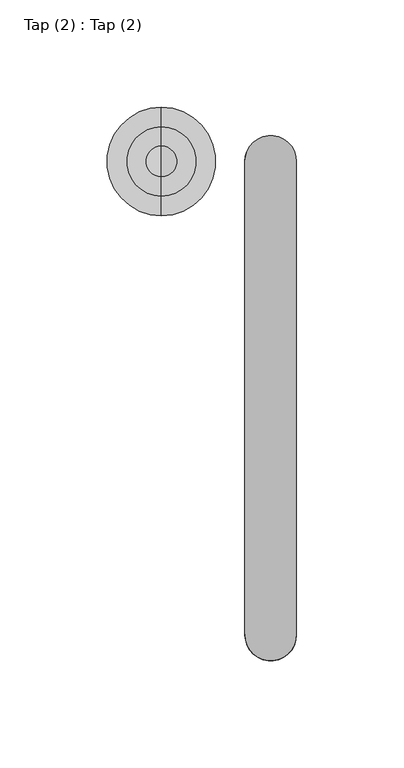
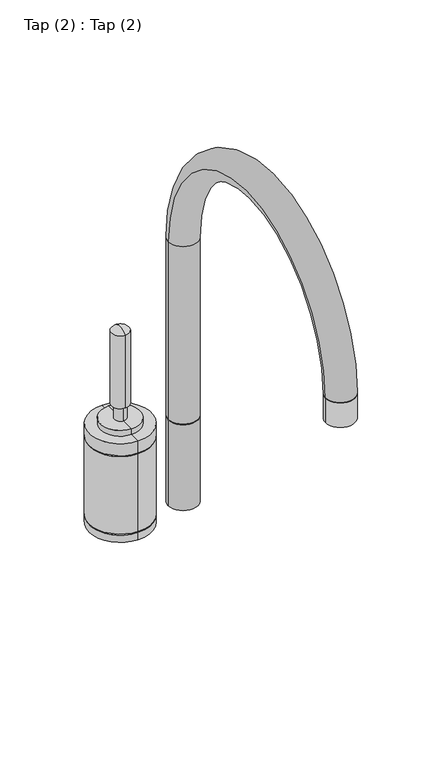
"""IFC4 building model written with IfcOpenShell, lengths in millimetres: flow terminal geometry, Tap (2) : Tap (2)."""

from ifc_helpers import new_model, si_unit, point, frame, frame_2d, origin, place, context, project, spatial, circle_curve, ellipse_curve, trimmed, segment, composite_curve, outline, extrude, source, transform, mapped, element, save
from ifc_brep_helpers import plane_surface, cylinder_surface, revolved_surface, advanced_brep


def tap_2_tap_2_4da6b067(model_context):
    return source(origin(), model_context, "Body", "SolidModel", [
        advanced_brep(
        [(-50.9853721, 24.996225, 7.0481597), (-50.9853721, 24.996225, 73.3929297), (-50.9853721, -25.596225, 73.3929297), (-50.9853721, -25.596225, 7.0481597), (-50.9853721, 23.0220655, 7.0481597), (-50.9853721, -23.6220655, 7.0481597), (-50.9853721, 23.0220655, 6.1258765), (-50.9853721, -23.6220655, 6.1258765), (-50.9853721, 24.996225, 6.1258765), (-50.9853721, -25.596225, 6.1258765), (-50.9853721, 24.996225, 0.0), (-50.9853721, -25.596225, 0.0), (-50.9853721, -0.3, 0.0), (-50.9853721, 6.8484255, 164.3758642), (-50.9853721, -0.3, 167.6798453), (-50.9853721, -7.4484255, 164.3758642), (-50.9853721, 6.8484255, 101.8164478), (-50.9853721, -7.4484255, 101.8164478), (-50.9853721, 4.4833611, 101.8164478), (-50.9853721, -5.0833611, 101.8164478), (-50.9853721, 4.4833611, 89.4265231), (-50.9853721, -5.0833611, 89.4265231), (-50.9853721, 15.8021288, 89.4265231), (-50.9853721, -16.4021288, 89.4265231), (-50.9853721, 15.8021288, 84.643162), (-50.9853721, -16.4021288, 84.643162), (-50.9853721, 24.996225, 84.643162), (-50.9853721, -25.596225, 84.643162), (-50.9853721, 24.996225, 74.315213), (-50.9853721, -25.596225, 74.315213), (-50.9853721, 23.0220655, 74.315213), (-50.9853721, -23.6220655, 74.315213), (-50.9853721, 23.0220655, 73.3929297), (-50.9853721, -23.6220655, 73.3929297)],
        [
            (0, 1),
            (1, 2, circle_curve(frame((-50.9853721, -0.3, 73.3929297), z_axis=(0.0, 0.0, -1.0), x_axis=(0.0, -1.0, 0.0)), 25.296225)),
            (2, 3),
            (3, 0, circle_curve(frame((-50.9853721, -0.3, 7.0481597), z_axis=(0.0, 0.0, 1.0), x_axis=(0.0, -1.0, 0.0)), 25.296225)),
            (2, 1, circle_curve(frame((-50.9853721, -0.3, 73.3929297), z_axis=(0.0, 0.0, -1.0), x_axis=(0.0, -1.0, 0.0)), 25.296225)),
            (0, 3, circle_curve(frame((-50.9853721, -0.3, 7.0481597), z_axis=(0.0, 0.0, 1.0), x_axis=(0.0, -1.0, 0.0)), 25.296225)),
            (4, 0),
            (3, 5),
            (5, 4, circle_curve(frame((-50.9853721, -0.3, 7.0481597), z_axis=(0.0, 0.0, 1.0), x_axis=(0.0, -1.0, 0.0)), 23.3220655)),
            (4, 5, circle_curve(frame((-50.9853721, -0.3, 7.0481597), z_axis=(0.0, 0.0, 1.0), x_axis=(0.0, -1.0, 0.0)), 23.3220655)),
            (6, 4),
            (5, 7),
            (7, 6, circle_curve(frame((-50.9853721, -0.3, 6.1258765), z_axis=(0.0, 0.0, 1.0), x_axis=(0.0, -1.0, 0.0)), 23.3220655)),
            (6, 7, circle_curve(frame((-50.9853721, -0.3, 6.1258765), z_axis=(0.0, 0.0, 1.0), x_axis=(0.0, -1.0, 0.0)), 23.3220655)),
            (8, 6),
            (7, 9),
            (9, 8, circle_curve(frame((-50.9853721, -0.3, 6.1258765), z_axis=(0.0, 0.0, 1.0), x_axis=(0.0, -1.0, 0.0)), 25.296225)),
            (8, 9, circle_curve(frame((-50.9853721, -0.3, 6.1258765), z_axis=(0.0, 0.0, 1.0), x_axis=(0.0, -1.0, 0.0)), 25.296225)),
            (10, 8),
            (9, 11),
            (11, 10, circle_curve(frame((-50.9853721, -0.3, 0.0), z_axis=(0.0, 0.0, 1.0), x_axis=(0.0, -1.0, 0.0)), 25.296225)),
            (10, 11, circle_curve(frame((-50.9853721, -0.3, 0.0), z_axis=(0.0, 0.0, 1.0), x_axis=(0.0, -1.0, 0.0)), 25.296225)),
            (12, 10),
            (11, 12),
            (13, 14, circle_curve(frame((-50.9853721, -1.2741158, 156.1871846), z_axis=(1.0, 0.0, 0.0), x_axis=(0.0, 0.7042338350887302, 0.7099681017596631)), 11.5338697)),
            (14, 15, circle_curve(frame((-50.9853721, 0.6741158, 156.1871846), z_axis=(1.0, 0.0, 0.0), x_axis=(0.0, -0.7042338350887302, 0.7099681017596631)), 11.5338697)),
            (15, 13, circle_curve(frame((-50.9853721, -0.3, 164.3758642), z_axis=(0.0, 0.0, 1.0), x_axis=(0.0, -1.0, 0.0)), 7.1484255)),
            (13, 15, circle_curve(frame((-50.9853721, -0.3, 164.3758642), z_axis=(0.0, 0.0, 1.0), x_axis=(0.0, -1.0, 0.0)), 7.1484255)),
            (16, 13),
            (15, 17),
            (17, 16, circle_curve(frame((-50.9853721, -0.3, 101.8164478), z_axis=(0.0, 0.0, 1.0), x_axis=(0.0, -1.0, 0.0)), 7.1484255)),
            (16, 17, circle_curve(frame((-50.9853721, -0.3, 101.8164478), z_axis=(0.0, 0.0, 1.0), x_axis=(0.0, -1.0, 0.0)), 7.1484255)),
            (18, 16),
            (17, 19),
            (19, 18, circle_curve(frame((-50.9853721, -0.3, 101.8164478), z_axis=(0.0, 0.0, 1.0), x_axis=(0.0, -1.0, 0.0)), 4.7833611)),
            (18, 19, circle_curve(frame((-50.9853721, -0.3, 101.8164478), z_axis=(0.0, 0.0, 1.0), x_axis=(0.0, -1.0, 0.0)), 4.7833611)),
            (20, 18),
            (19, 21),
            (21, 20, circle_curve(frame((-50.9853721, -0.3, 89.4265231), z_axis=(0.0, 0.0, 1.0), x_axis=(0.0, -1.0, 0.0)), 4.7833611)),
            (20, 21, circle_curve(frame((-50.9853721, -0.3, 89.4265231), z_axis=(0.0, 0.0, 1.0), x_axis=(0.0, -1.0, 0.0)), 4.7833611)),
            (22, 20),
            (21, 23),
            (23, 22, circle_curve(frame((-50.9853721, -0.3, 89.4265231), z_axis=(0.0, 0.0, 1.0), x_axis=(0.0, -1.0, 0.0)), 16.1021288)),
            (22, 23, circle_curve(frame((-50.9853721, -0.3, 89.4265231), z_axis=(0.0, 0.0, 1.0), x_axis=(0.0, -1.0, 0.0)), 16.1021288)),
            (24, 22),
            (23, 25),
            (25, 24, circle_curve(frame((-50.9853721, -0.3, 84.643162), z_axis=(0.0, 0.0, 1.0), x_axis=(0.0, -1.0, 0.0)), 16.1021288)),
            (24, 25, circle_curve(frame((-50.9853721, -0.3, 84.643162), z_axis=(0.0, 0.0, 1.0), x_axis=(0.0, -1.0, 0.0)), 16.1021288)),
            (26, 24),
            (25, 27),
            (27, 26, circle_curve(frame((-50.9853721, -0.3, 84.643162), z_axis=(0.0, 0.0, 1.0), x_axis=(0.0, -1.0, 0.0)), 25.296225)),
            (26, 27, circle_curve(frame((-50.9853721, -0.3, 84.643162), z_axis=(0.0, 0.0, 1.0), x_axis=(0.0, -1.0, 0.0)), 25.296225)),
            (28, 26),
            (27, 29),
            (29, 28, circle_curve(frame((-50.9853721, -0.3, 74.315213), z_axis=(0.0, 0.0, 1.0), x_axis=(0.0, -1.0, 0.0)), 25.296225)),
            (28, 29, circle_curve(frame((-50.9853721, -0.3, 74.315213), z_axis=(0.0, 0.0, 1.0), x_axis=(0.0, -1.0, 0.0)), 25.296225)),
            (30, 28),
            (29, 31),
            (31, 30, circle_curve(frame((-50.9853721, -0.3, 74.315213), z_axis=(0.0, 0.0, 1.0), x_axis=(0.0, -1.0, 0.0)), 23.3220655)),
            (30, 31, circle_curve(frame((-50.9853721, -0.3, 74.315213), z_axis=(0.0, 0.0, 1.0), x_axis=(0.0, -1.0, 0.0)), 23.3220655)),
            (32, 30),
            (31, 33),
            (33, 32, circle_curve(frame((-50.9853721, -0.3, 73.3929297), z_axis=(0.0, 0.0, 1.0), x_axis=(0.0, -1.0, 0.0)), 23.3220655)),
            (32, 33, circle_curve(frame((-50.9853721, -0.3, 73.3929297), z_axis=(0.0, 0.0, 1.0), x_axis=(0.0, -1.0, 0.0)), 23.3220655)),
            (1, 32),
            (33, 2),
        ],
        [
            cylinder_surface(frame((-50.9853721, -0.3, 0.0), z_axis=(0.0, 0.0, -1.0), x_axis=(0.0, -1.0, 0.0)), 25.296225),
            plane_surface(frame((-50.9853721, -0.3, 7.0481597), z_axis=(0.0, 0.0, -1.0), x_axis=(0.0, -1.0, 0.0))),
            cylinder_surface(frame((-50.9853721, -0.3, 0.0), z_axis=(0.0, 0.0, -1.0), x_axis=(0.0, -1.0, 0.0)), 23.3220655),
            plane_surface(frame((-50.9853721, -0.3, 6.1258765), z_axis=(0.0, 0.0, 1.0), x_axis=(0.0, -1.0, 0.0))),
            plane_surface(frame((-50.9853721, -0.3, 0.0), z_axis=(0.0, 0.0, -1.0), x_axis=(0.0, -1.0, 0.0))),
            revolved_surface(trimmed(ellipse_curve(frame((-50.9853721, 0.6741158, 156.1871846), z_axis=(1.0, 0.0, 0.0), x_axis=(0.0, -0.7042338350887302, 0.7099681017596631)), 11.5338697, 11.5338697), [point((-50.9853721, -0.3, 167.6798453))], [point((-50.9853721, -7.4484255, 164.3758642))], True, "CARTESIAN"), (-50.9853721, -0.3, 0.0), (0.0, 0.0, -1.0)),
            cylinder_surface(frame((-50.9853721, -0.3, 0.0), z_axis=(0.0, 0.0, -1.0), x_axis=(0.0, -1.0, 0.0)), 7.1484255),
            plane_surface(frame((-50.9853721, -0.3, 101.8164478), z_axis=(0.0, 0.0, -1.0), x_axis=(0.0, -1.0, 0.0))),
            cylinder_surface(frame((-50.9853721, -0.3, 0.0), z_axis=(0.0, 0.0, -1.0), x_axis=(0.0, -1.0, 0.0)), 4.7833611),
            plane_surface(frame((-50.9853721, -0.3, 89.4265231), z_axis=(0.0, 0.0, 1.0), x_axis=(0.0, -1.0, 0.0))),
            cylinder_surface(frame((-50.9853721, -0.3, 0.0), z_axis=(0.0, 0.0, -1.0), x_axis=(0.0, -1.0, 0.0)), 16.1021288),
            plane_surface(frame((-50.9853721, -0.3, 84.643162), z_axis=(0.0, 0.0, 1.0), x_axis=(0.0, -1.0, 0.0))),
            plane_surface(frame((-50.9853721, -0.3, 74.315213), z_axis=(0.0, 0.0, -1.0), x_axis=(0.0, -1.0, 0.0))),
            plane_surface(frame((-50.9853721, -0.3, 73.3929297), z_axis=(0.0, 0.0, 1.0), x_axis=(0.0, -1.0, 0.0))),
        ],
        [
            (0, [[1, 2, 3, 4]]),
            (0, [[-3, 5, -1, 6]]),
            (1, [[7, -4, 8, 9]]),
            (1, [[-8, -6, -7, 10]]),
            (2, [[11, -9, 12, 13]]),
            (2, [[-12, -10, -11, 14]]),
            (3, [[15, -13, 16, 17]]),
            (3, [[-16, -14, -15, 18]]),
            (0, [[19, -17, 20, 21]]),
            (0, [[-20, -18, -19, 22]]),
            (4, [[23, -21, 24]]),
            (4, [[-24, -22, -23]]),
            (5, [[25, 26, 27]]),
            (5, [[-26, -25, 28]]),
            (6, [[29, -27, 30, 31]]),
            (6, [[-30, -28, -29, 32]]),
            (7, [[33, -31, 34, 35]]),
            (7, [[-34, -32, -33, 36]]),
            (8, [[37, -35, 38, 39]]),
            (8, [[-38, -36, -37, 40]]),
            (9, [[41, -39, 42, 43]]),
            (9, [[-42, -40, -41, 44]]),
            (10, [[45, -43, 46, 47]]),
            (10, [[-46, -44, -45, 48]]),
            (11, [[49, -47, 50, 51]]),
            (11, [[-50, -48, -49, 52]]),
            (0, [[53, -51, 54, 55]]),
            (0, [[-54, -52, -53, 56]]),
            (12, [[57, -55, 58, 59]]),
            (12, [[-58, -56, -57, 60]]),
            (2, [[61, -59, 62, 63]]),
            (2, [[-62, -60, -61, 64]]),
            (13, [[65, -63, 66, -2]]),
            (13, [[-66, -64, -65, -5]]),
        ],
    ),
        extrude(outline(composite_curve([segment(trimmed(circle_curve(frame_2d((0.0, -221.2769697)), 12.0), [point((12.0, -221.2769697))], [point((-12.0, -221.2769697))], False, "CARTESIAN"), True, "CONTINUOUS"), segment(trimmed(circle_curve(frame_2d((0.0, -221.2769697)), 12.0), [point((-12.0, -221.2769697))], [point((12.0, -221.2769697))], False, "CARTESIAN"), True, "CONTINUOUS")], self_intersect=False)), frame((0.0, 0.0, 205.415632), z_axis=(0.0, 0.0, 1.0), x_axis=(1.0, 0.0, 0.0)), (0.0, 0.0, 1.0), 20.9635721),
        advanced_brep(
        [(-12.0, -221.2769697, 226.3792041), (12.0, -221.2769697, 226.3792041), (12.0, -0.3, 226.3792041), (-12.0, -0.3, 226.3792041), (-12.0, -0.3, 0.0), (12.0, -0.3, 0.0), (12.0, -0.3, 74.315213), (0.0, 11.7, 74.315213), (-12.0, -0.3, 74.315213), (-12.0, -0.3, 73.3929297), (0.0, 11.7, 73.3929297), (12.0, -0.3, 73.3929297), (0.0, -12.3, 74.315213), (0.0, -12.3, 73.3929297), (0.0, 10.8084675, 74.315213), (0.0, -11.4084675, 74.315213), (0.0, -11.4084675, 73.3929297), (0.0, 10.8084675, 73.3929297)],
        [
            (0, 1, circle_curve(frame((0.0, -221.2769697, 226.3792041), z_axis=(0.0, 0.0, -1.0), x_axis=(1.0, 0.0, 0.0)), 12.0)),
            (1, 0, circle_curve(frame((0.0, -221.2769697, 226.3792041), z_axis=(0.0, 0.0, -1.0), x_axis=(1.0, 0.0, 0.0)), 12.0)),
            (1, 2, circle_curve(frame((12.0, -110.7884849, 226.3792041), z_axis=(-1.0, 0.0, 0.0), x_axis=(0.0, -1.0, 0.0)), 110.4884849)),
            (2, 3, circle_curve(frame((0.0, -0.3, 226.3792041), z_axis=(0.0, 0.0, 1.0), x_axis=(1.0, 0.0, 0.0)), 12.0)),
            (3, 0, circle_curve(frame((-12.0, -110.7884849, 226.3792041), z_axis=(1.0, 0.0, 0.0), x_axis=(0.0, -1.0, 0.0)), 110.4884849)),
            (3, 2, circle_curve(frame((0.0, -0.3, 226.3792041), z_axis=(0.0, 0.0, 1.0), x_axis=(1.0, 0.0, 0.0)), 12.0)),
            (4, 5, circle_curve(frame((0.0, -0.3, 0.0), z_axis=(0.0, 0.0, -1.0), x_axis=(1.0, 0.0, 0.0)), 12.0)),
            (5, 4, circle_curve(frame((0.0, -0.3, 0.0), z_axis=(0.0, 0.0, -1.0), x_axis=(1.0, 0.0, 0.0)), 12.0)),
            (2, 6),
            (6, 7, circle_curve(frame((0.0, -0.3, 74.315213), z_axis=(0.0, 0.0, 1.0), x_axis=(1.0, 0.0, 0.0)), 12.0)),
            (7, 8, circle_curve(frame((0.0, -0.3, 74.315213), z_axis=(0.0, 0.0, 1.0), x_axis=(1.0, 0.0, 0.0)), 12.0)),
            (8, 3),
            (4, 9),
            (9, 10, circle_curve(frame((0.0, -0.3, 73.3929297), z_axis=(0.0, 0.0, -1.0), x_axis=(1.0, 0.0, 0.0)), 12.0)),
            (10, 11, circle_curve(frame((0.0, -0.3, 73.3929297), z_axis=(0.0, 0.0, -1.0), x_axis=(1.0, 0.0, 0.0)), 12.0)),
            (11, 5),
            (8, 12, circle_curve(frame((0.0, -0.3, 74.315213), z_axis=(0.0, 0.0, 1.0), x_axis=(1.0, 0.0, 0.0)), 12.0)),
            (12, 6, circle_curve(frame((0.0, -0.3, 74.315213), z_axis=(0.0, 0.0, 1.0), x_axis=(1.0, 0.0, 0.0)), 12.0)),
            (11, 13, circle_curve(frame((0.0, -0.3, 73.3929297), z_axis=(0.0, 0.0, -1.0), x_axis=(1.0, 0.0, 0.0)), 12.0)),
            (13, 9, circle_curve(frame((0.0, -0.3, 73.3929297), z_axis=(0.0, 0.0, -1.0), x_axis=(1.0, 0.0, 0.0)), 12.0)),
            (14, 15, circle_curve(frame((0.0, -0.3, 74.315213), z_axis=(0.0, 0.0, -1.0), x_axis=(0.0, -1.0, 0.0)), 11.1084675)),
            (15, 16),
            (16, 17, circle_curve(frame((0.0, -0.3, 73.3929297), z_axis=(0.0, 0.0, 1.0), x_axis=(0.0, -1.0, 0.0)), 11.1084675)),
            (17, 14),
            (17, 16, circle_curve(frame((0.0, -0.3, 73.3929297), z_axis=(0.0, 0.0, 1.0), x_axis=(0.0, -1.0, 0.0)), 11.1084675)),
            (15, 14, circle_curve(frame((0.0, -0.3, 74.315213), z_axis=(0.0, 0.0, -1.0), x_axis=(0.0, -1.0, 0.0)), 11.1084675)),
            (14, 7),
            (12, 15),
            (16, 13),
            (10, 17),
        ],
        [
            plane_surface(frame((0.0, -221.2769697, 226.3792041), z_axis=(0.0, 0.0, -1.0), x_axis=(1.0, 0.0, 0.0))),
            revolved_surface(trimmed(ellipse_curve(frame((0.0, -221.2769697, 226.3792041), z_axis=(0.0, 0.0, 1.0), x_axis=(1.0, 0.0, 0.0)), 12.0, 12.0), [point((-12.0, -221.2769697, 226.3792041))], [point((12.0, -221.2769697, 226.3792041))], True, "CARTESIAN"), (0.0, -110.7884849, 226.3792041), (1.0, 0.0, 0.0)),
            revolved_surface(trimmed(ellipse_curve(frame((0.0, -221.2769697, 226.3792041), z_axis=(0.0, 0.0, 1.0), x_axis=(1.0, 0.0, 0.0)), 12.0, 12.0), [point((12.0, -221.2769697, 226.3792041))], [point((-12.0, -221.2769697, 226.3792041))], True, "CARTESIAN"), (0.0, -110.7884849, 226.3792041), (1.0, 0.0, 0.0)),
            plane_surface(frame((0.0, -0.3, 0.0), z_axis=(0.0, 0.0, -1.0), x_axis=(1.0, 0.0, 0.0))),
            cylinder_surface(frame((0.0, -0.3, 226.3792041), z_axis=(0.0, 0.0, 1.0), x_axis=(1.0, 0.0, 0.0)), 12.0),
            cylinder_surface(frame((0.0, -0.3, 0.0), z_axis=(0.0, 0.0, -1.0), x_axis=(0.0, -1.0, 0.0)), 11.1084675),
            plane_surface(frame((0.0, -0.3, 74.315213), z_axis=(0.0, 0.0, -1.0), x_axis=(0.0, -1.0, 0.0))),
            plane_surface(frame((0.0, -0.3, 73.3929297), z_axis=(0.0, 0.0, 1.0), x_axis=(0.0, -1.0, 0.0))),
        ],
        [
            (0, [[1, 2]]),
            (1, [[3, 4, 5, -2]]),
            (2, [[-5, 6, -3, -1]]),
            (3, [[7, 8]]),
            (4, [[9, 10, 11, 12, -4]]),
            (4, [[13, 14, 15, 16, -7]]),
            (4, [[-12, 17, 18, -9, -6]]),
            (4, [[-16, 19, 20, -13, -8]]),
            (5, [[21, 22, 23, 24]]),
            (5, [[25, -22, 26, -24]]),
            (6, [[27, -10, -18, 28, -21]]),
            (6, [[-28, -17, -11, -27, -26]]),
            (7, [[29, -19, -15, 30, -23]]),
            (7, [[-30, -14, -20, -29, -25]]),
        ],
    ),
    ])


if __name__ == "__main__":
    model = new_model("IFC4")
    model_context = context("Model", 3, world=origin())
    ifc_project = project(units=[si_unit("LENGTHUNIT", "METRE", prefix="MILLI")], contexts=[model_context])
    site = spatial("IfcSite", under=ifc_project)
    building = spatial("IfcBuilding", under=site)
    placement = place(None, origin())
    tap_2_tap_2_shape = tap_2_tap_2_4da6b067(model_context)
    element("IfcFlowTerminal", 1, ObjectType="Tap (2) : Tap (2)", at=placement, inside=building, context=model_context, shape_type="MappedRepresentation", body=[
        mapped(tap_2_tap_2_shape, transform((0.0, 0.0, 0.0), x_axis=(1.0, 0.0, 0.0), y_axis=(0.0, 1.0, 0.0), z_axis=(0.0, 0.0, 1.0))),
    ])
    save(model, "model.ifc")
